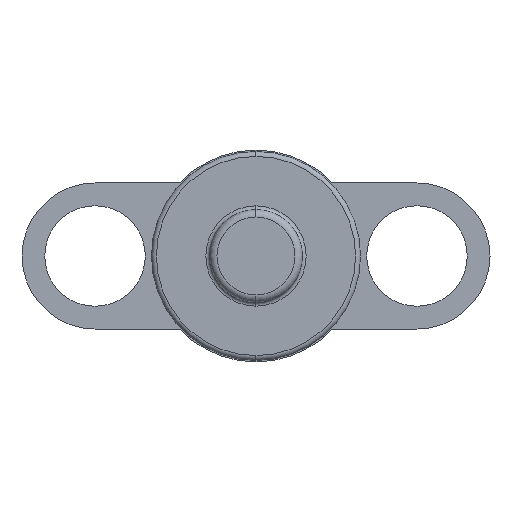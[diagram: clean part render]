
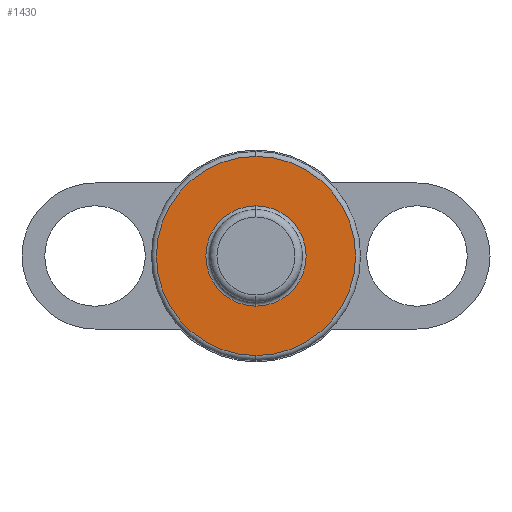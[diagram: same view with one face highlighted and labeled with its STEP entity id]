
A CAD part, front view. The second image highlights one B-rep face of the part: STEP entity #1430.
In plain terms, the highlighted planar face has unit normal (0, -1, 0).
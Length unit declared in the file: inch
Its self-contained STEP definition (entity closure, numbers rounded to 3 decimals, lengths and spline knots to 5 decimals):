
#97 = CIRCLE ( 'NONE', #903, 0.40205 ) ;
#108 = EDGE_CURVE ( 'NONE', #930, #674, #97, .T. ) ;
#118 = DIRECTION ( 'NONE',  ( 0., 1., 0. ) ) ;
#136 = DIRECTION ( 'NONE',  ( 0., 1., 0. ) ) ;
#166 = CARTESIAN_POINT ( 'NONE',  ( 0., 0., 0. ) ) ;
#231 = ORIENTED_EDGE ( 'NONE', *, *, #461, .T. ) ;
#254 = DIRECTION ( 'NONE',  ( 0., 0., 1. ) ) ;
#335 = AXIS2_PLACEMENT_3D ( 'NONE', #955, #136, #254 ) ;
#340 = DIRECTION ( 'NONE',  ( 0., -1., 0. ) ) ;
#389 = AXIS2_PLACEMENT_3D ( 'NONE', #1447, #827, #1435 ) ;
#397 = CARTESIAN_POINT ( 'NONE',  ( 0., 0., -0.40205 ) ) ;
#439 = FACE_OUTER_BOUND ( 'NONE', #516, .T. ) ;
#449 = CIRCLE ( 'NONE', #1281, 0.2025 ) ;
#461 = EDGE_CURVE ( 'NONE', #629, #1528, #449, .T. ) ;
#471 = CARTESIAN_POINT ( 'NONE',  ( 0., 0., 0. ) ) ;
#516 = EDGE_LOOP ( 'NONE', ( #1185, #970 ) ) ;
#590 = PLANE ( 'NONE',  #389 ) ;
#629 = VERTEX_POINT ( 'NONE', #758 ) ;
#674 = VERTEX_POINT ( 'NONE', #397 ) ;
#725 = ORIENTED_EDGE ( 'NONE', *, *, #920, .T. ) ;
#758 = CARTESIAN_POINT ( 'NONE',  ( 0., 0., -0.2025 ) ) ;
#799 = CIRCLE ( 'NONE', #999, 0.40205 ) ;
#826 = CARTESIAN_POINT ( 'NONE',  ( 0., 0., 0. ) ) ;
#827 = DIRECTION ( 'NONE',  ( 0., 1., 0. ) ) ;
#845 = CARTESIAN_POINT ( 'NONE',  ( 0., 0., 0.2025 ) ) ;
#864 = EDGE_CURVE ( 'NONE', #674, #930, #799, .T. ) ;
#903 = AXIS2_PLACEMENT_3D ( 'NONE', #166, #1098, #995 ) ;
#920 = EDGE_CURVE ( 'NONE', #1528, #629, #1251, .T. ) ;
#930 = VERTEX_POINT ( 'NONE', #1210 ) ;
#955 = CARTESIAN_POINT ( 'NONE',  ( 0., 0., 0. ) ) ;
#970 = ORIENTED_EDGE ( 'NONE', *, *, #864, .T. ) ;
#995 = DIRECTION ( 'NONE',  ( 0., 0., 1. ) ) ;
#999 = AXIS2_PLACEMENT_3D ( 'NONE', #471, #340, #1035 ) ;
#1035 = DIRECTION ( 'NONE',  ( 0., 0., 1. ) ) ;
#1098 = DIRECTION ( 'NONE',  ( 0., -1., 0. ) ) ;
#1110 = EDGE_LOOP ( 'NONE', ( #725, #231 ) ) ;
#1176 = DIRECTION ( 'NONE',  ( 0., 0., 1. ) ) ;
#1185 = ORIENTED_EDGE ( 'NONE', *, *, #108, .T. ) ;
#1210 = CARTESIAN_POINT ( 'NONE',  ( 0., 0., 0.40205 ) ) ;
#1251 = CIRCLE ( 'NONE', #335, 0.2025 ) ;
#1281 = AXIS2_PLACEMENT_3D ( 'NONE', #826, #118, #1176 ) ;
#1430 = ADVANCED_FACE ( 'NONE', ( #1443, #439 ), #590, .F. ) ;
#1435 = DIRECTION ( 'NONE',  ( 0., 0., 1. ) ) ;
#1443 = FACE_BOUND ( 'NONE', #1110, .T. ) ;
#1447 = CARTESIAN_POINT ( 'NONE',  ( -0.42205, 0., 0. ) ) ;
#1528 = VERTEX_POINT ( 'NONE', #845 ) ;
